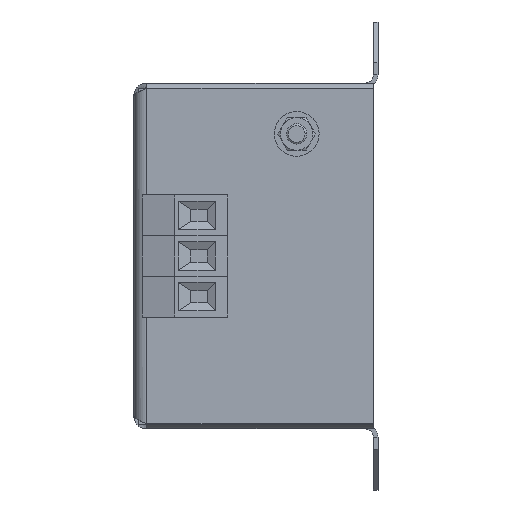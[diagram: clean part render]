
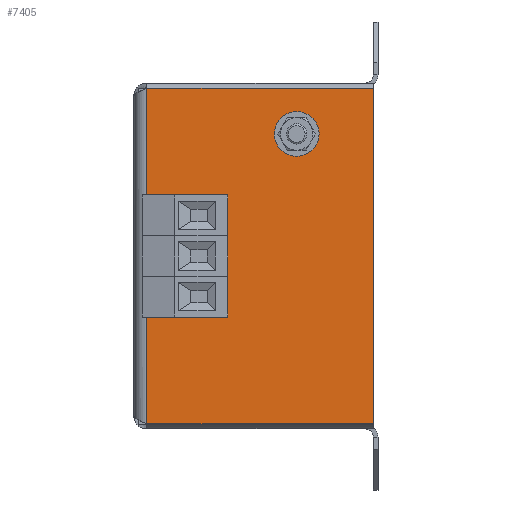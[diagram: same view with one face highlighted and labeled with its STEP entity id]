
A CAD part, left-side view. The second image highlights one B-rep face of the part: STEP entity #7405.
In plain terms, the highlighted planar face has unit normal (-1, 0, 0).
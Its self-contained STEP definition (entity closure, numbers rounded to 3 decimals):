
#109 = DIRECTION ( 'NONE',  ( 0., -1., 0. ) ) ;
#149 = CARTESIAN_POINT ( 'NONE',  ( -1.2, 0., 82.529 ) ) ;
#215 = DIRECTION ( 'NONE',  ( 0., -1., 0. ) ) ;
#313 = DIRECTION ( 'NONE',  ( 0., -1., 0. ) ) ;
#421 = AXIS2_PLACEMENT_3D ( 'NONE', #9488, #4618, #614 ) ;
#458 = DIRECTION ( 'NONE',  ( -1., 0., 0. ) ) ;
#528 = DIRECTION ( 'NONE',  ( -1., 0., 0. ) ) ;
#544 = VERTEX_POINT ( 'NONE', #1204 ) ;
#614 = DIRECTION ( 'NONE',  ( 0., 1., 0. ) ) ;
#863 = EDGE_LOOP ( 'NONE', ( #9346, #942 ) ) ;
#888 = VERTEX_POINT ( 'NONE', #8918 ) ;
#927 = DIRECTION ( 'NONE',  ( -1., 0., 0. ) ) ;
#942 = ORIENTED_EDGE ( 'NONE', *, *, #6910, .F. ) ;
#983 = DIRECTION ( 'NONE',  ( 0., 0., -1. ) ) ;
#1070 = EDGE_CURVE ( 'NONE', #9628, #8052, #1530, .T. ) ;
#1125 = ORIENTED_EDGE ( 'NONE', *, *, #4243, .F. ) ;
#1204 = CARTESIAN_POINT ( 'NONE',  ( -1.2, -15.9, 51.3 ) ) ;
#1248 = CARTESIAN_POINT ( 'NONE',  ( -1.2, -38.8, 71.3 ) ) ;
#1278 = EDGE_LOOP ( 'NONE', ( #4973, #8670 ) ) ;
#1414 = FACE_BOUND ( 'NONE', #863, .T. ) ;
#1530 = LINE ( 'NONE', #8257, #7793 ) ;
#1598 = CIRCLE ( 'NONE', #6364, 2.5 ) ;
#1670 = VERTEX_POINT ( 'NONE', #8168 ) ;
#1754 = VERTEX_POINT ( 'NONE', #5859 ) ;
#1966 = DIRECTION ( 'NONE',  ( 0., -1., 0. ) ) ;
#2067 = ORIENTED_EDGE ( 'NONE', *, *, #6369, .F. ) ;
#2133 = CARTESIAN_POINT ( 'NONE',  ( -1.2, -2., 82.529 ) ) ;
#2147 = EDGE_LOOP ( 'NONE', ( #2067, #2219, #7930, #6332 ) ) ;
#2219 = ORIENTED_EDGE ( 'NONE', *, *, #8302, .T. ) ;
#2297 = LINE ( 'NONE', #10025, #5381 ) ;
#2523 = EDGE_CURVE ( 'NONE', #3476, #544, #3545, .T. ) ;
#2530 = CARTESIAN_POINT ( 'NONE',  ( -1.2, -11.8, 31.3 ) ) ;
#2543 = VERTEX_POINT ( 'NONE', #7443 ) ;
#2542 = EDGE_CURVE ( 'NONE', #544, #3476, #9797, .T. ) ;
#2676 = CARTESIAN_POINT ( 'NONE',  ( -1.2, -11.8, 51.3 ) ) ;
#2780 = VERTEX_POINT ( 'NONE', #9555 ) ;
#2863 = EDGE_CURVE ( 'NONE', #2543, #1754, #8152, .T. ) ;
#3096 = VECTOR ( 'NONE', #3210, 1000. ) ;
#3210 = DIRECTION ( 'NONE',  ( 0., 0., 1. ) ) ;
#3220 = DIRECTION ( 'NONE',  ( -1., 0., 0. ) ) ;
#3388 = AXIS2_PLACEMENT_3D ( 'NONE', #2676, #4259, #109 ) ;
#3476 = VERTEX_POINT ( 'NONE', #3994 ) ;
#3545 = CIRCLE ( 'NONE', #3388, 4.1 ) ;
#3553 = AXIS2_PLACEMENT_3D ( 'NONE', #9557, #4675, #5519 ) ;
#3656 = CARTESIAN_POINT ( 'NONE',  ( -1.2, -57.6, 82.529 ) ) ;
#3819 = DIRECTION ( 'NONE',  ( 0., -1., 0. ) ) ;
#3994 = CARTESIAN_POINT ( 'NONE',  ( -1.2, -7.7, 51.3 ) ) ;
#4195 = CARTESIAN_POINT ( 'NONE',  ( -1.2, -11.8, 51.3 ) ) ;
#4212 = VERTEX_POINT ( 'NONE', #6479 ) ;
#4240 = FACE_BOUND ( 'NONE', #6442, .T. ) ;
#4243 = EDGE_CURVE ( 'NONE', #4212, #1670, #1598, .T. ) ;
#4259 = DIRECTION ( 'NONE',  ( -1., 0., 0. ) ) ;
#4271 = ORIENTED_EDGE ( 'NONE', *, *, #2542, .F. ) ;
#4377 = EDGE_CURVE ( 'NONE', #8908, #9628, #6464, .T. ) ;
#4513 = EDGE_CURVE ( 'NONE', #1670, #4212, #10264, .T. ) ;
#4618 = DIRECTION ( 'NONE',  ( 1., 0., 0. ) ) ;
#4669 = EDGE_CURVE ( 'NONE', #6773, #2780, #6213, .T. ) ;
#4675 = DIRECTION ( 'NONE',  ( -1., 0., 0. ) ) ;
#4701 = CARTESIAN_POINT ( 'NONE',  ( -1.2, -11.8, 41.3 ) ) ;
#4729 = DIRECTION ( 'NONE',  ( 0., -1., 0. ) ) ;
#4973 = ORIENTED_EDGE ( 'NONE', *, *, #2863, .F. ) ;
#5184 = VECTOR ( 'NONE', #5814, 1000. ) ;
#5257 = FACE_BOUND ( 'NONE', #1278, .T. ) ;
#5381 = VECTOR ( 'NONE', #9921, 1000. ) ;
#5406 = CARTESIAN_POINT ( 'NONE',  ( -1.2, -11.8, 31.3 ) ) ;
#5519 = DIRECTION ( 'NONE',  ( 0., -1., 0. ) ) ;
#5655 = CARTESIAN_POINT ( 'NONE',  ( -1.2, -2., 82.6 ) ) ;
#5814 = DIRECTION ( 'NONE',  ( 0., -1., 0. ) ) ;
#5819 = CIRCLE ( 'NONE', #8117, 4.1 ) ;
#5859 = CARTESIAN_POINT ( 'NONE',  ( -1.2, -7.7, 31.3 ) ) ;
#6213 = CIRCLE ( 'NONE', #3553, 4.1 ) ;
#6216 = CARTESIAN_POINT ( 'NONE',  ( -1.2, -57.6, 0.071 ) ) ;
#6289 = FACE_BOUND ( 'NONE', #7344, .T. ) ;
#6332 = ORIENTED_EDGE ( 'NONE', *, *, #4377, .F. ) ;
#6364 = AXIS2_PLACEMENT_3D ( 'NONE', #9634, #3220, #4729 ) ;
#6369 = EDGE_CURVE ( 'NONE', #888, #8908, #8343, .T. ) ;
#6442 = EDGE_LOOP ( 'NONE', ( #1125, #6844 ) ) ;
#6464 = LINE ( 'NONE', #149, #5184 ) ;
#6479 = CARTESIAN_POINT ( 'NONE',  ( -1.2, -41.3, 71.3 ) ) ;
#6773 = VERTEX_POINT ( 'NONE', #7779 ) ;
#6844 = ORIENTED_EDGE ( 'NONE', *, *, #4513, .F. ) ;
#6910 = EDGE_CURVE ( 'NONE', #2780, #6773, #6924, .T. ) ;
#6923 = AXIS2_PLACEMENT_3D ( 'NONE', #4701, #8035, #10475 ) ;
#6924 = CIRCLE ( 'NONE', #6923, 4.1 ) ;
#7344 = EDGE_LOOP ( 'NONE', ( #4271, #10329 ) ) ;
#7405 = ADVANCED_FACE ( 'NONE', ( #5257, #6289, #1414, #4240, #10350 ), #9527, .F. ) ;
#7443 = CARTESIAN_POINT ( 'NONE',  ( -1.2, -15.9, 31.3 ) ) ;
#7573 = AXIS2_PLACEMENT_3D ( 'NONE', #5406, #528, #3819 ) ;
#7779 = CARTESIAN_POINT ( 'NONE',  ( -1.2, -15.9, 41.3 ) ) ;
#7793 = VECTOR ( 'NONE', #983, 1000. ) ;
#7930 = ORIENTED_EDGE ( 'NONE', *, *, #1070, .F. ) ;
#8035 = DIRECTION ( 'NONE',  ( -1., 0., 0. ) ) ;
#8052 = VERTEX_POINT ( 'NONE', #6216 ) ;
#8117 = AXIS2_PLACEMENT_3D ( 'NONE', #2530, #9069, #313 ) ;
#8152 = CIRCLE ( 'NONE', #7573, 4.1 ) ;
#8168 = CARTESIAN_POINT ( 'NONE',  ( -1.2, -36.3, 71.3 ) ) ;
#8257 = CARTESIAN_POINT ( 'NONE',  ( -1.2, -57.6, 82.6 ) ) ;
#8302 = EDGE_CURVE ( 'NONE', #888, #8052, #2297, .T. ) ;
#8343 = LINE ( 'NONE', #5655, #3096 ) ;
#8670 = ORIENTED_EDGE ( 'NONE', *, *, #8885, .F. ) ;
#8885 = EDGE_CURVE ( 'NONE', #1754, #2543, #5819, .T. ) ;
#8908 = VERTEX_POINT ( 'NONE', #2133 ) ;
#8918 = CARTESIAN_POINT ( 'NONE',  ( -1.2, -2., 0.071 ) ) ;
#9069 = DIRECTION ( 'NONE',  ( -1., 0., 0. ) ) ;
#9219 = AXIS2_PLACEMENT_3D ( 'NONE', #1248, #458, #1966 ) ;
#9346 = ORIENTED_EDGE ( 'NONE', *, *, #4669, .F. ) ;
#9488 = CARTESIAN_POINT ( 'NONE',  ( -1.2, 0., 82.6 ) ) ;
#9527 = PLANE ( 'NONE',  #421 ) ;
#9555 = CARTESIAN_POINT ( 'NONE',  ( -1.2, -7.7, 41.3 ) ) ;
#9557 = CARTESIAN_POINT ( 'NONE',  ( -1.2, -11.8, 41.3 ) ) ;
#9628 = VERTEX_POINT ( 'NONE', #3656 ) ;
#9634 = CARTESIAN_POINT ( 'NONE',  ( -1.2, -38.8, 71.3 ) ) ;
#9741 = AXIS2_PLACEMENT_3D ( 'NONE', #4195, #927, #215 ) ;
#9797 = CIRCLE ( 'NONE', #9741, 4.1 ) ;
#9921 = DIRECTION ( 'NONE',  ( 0., -1., 0. ) ) ;
#10025 = CARTESIAN_POINT ( 'NONE',  ( -1.2, 0., 0.071 ) ) ;
#10264 = CIRCLE ( 'NONE', #9219, 2.5 ) ;
#10329 = ORIENTED_EDGE ( 'NONE', *, *, #2523, .F. ) ;
#10350 = FACE_OUTER_BOUND ( 'NONE', #2147, .T. ) ;
#10475 = DIRECTION ( 'NONE',  ( 0., -1., 0. ) ) ;
